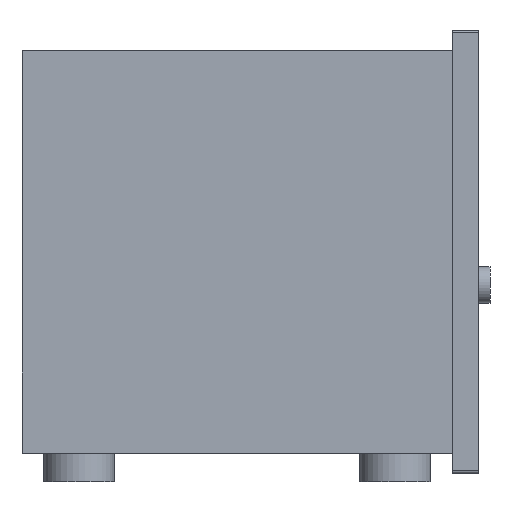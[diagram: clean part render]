
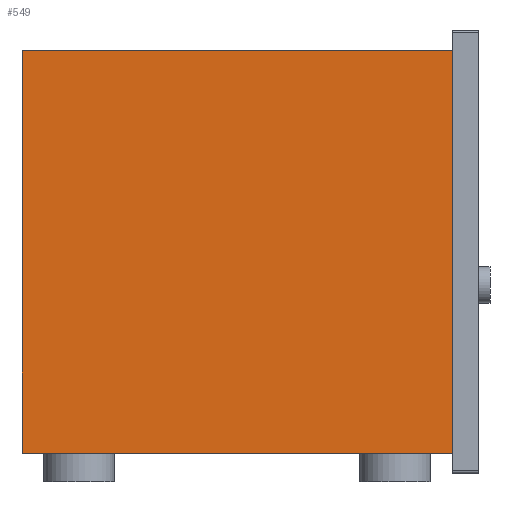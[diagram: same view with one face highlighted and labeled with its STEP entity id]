
A CAD part, left-side view. The second image highlights one B-rep face of the part: STEP entity #549.
In plain terms, the highlighted planar face has unit normal (-1, 0, 0).
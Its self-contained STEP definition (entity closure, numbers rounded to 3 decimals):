
#549=ADVANCED_FACE('',(#794),#659,.F.);
#659=PLANE('',#2810);
#794=FACE_OUTER_BOUND('',#955,.T.);
#955=EDGE_LOOP('',(#1577,#1578,#1579,#1580));
#1577=ORIENTED_EDGE('',*,*,#2141,.T.);
#1578=ORIENTED_EDGE('',*,*,#2142,.F.);
#1579=ORIENTED_EDGE('',*,*,#2143,.F.);
#1580=ORIENTED_EDGE('',*,*,#2144,.T.);
#1825=VERTEX_POINT('',#4453);
#1826=VERTEX_POINT('',#4454);
#1827=VERTEX_POINT('',#4456);
#1828=VERTEX_POINT('',#4458);
#2141=EDGE_CURVE('',#1825,#1826,#2372,.T.);
#2142=EDGE_CURVE('',#1827,#1826,#2373,.T.);
#2143=EDGE_CURVE('',#1828,#1827,#2374,.T.);
#2144=EDGE_CURVE('',#1828,#1825,#2375,.T.);
#2372=LINE('',#4452,#2604);
#2373=LINE('',#4455,#2605);
#2374=LINE('',#4457,#2606);
#2375=LINE('',#4459,#2607);
#2604=VECTOR('',#3444,1.);
#2605=VECTOR('',#3445,1.);
#2606=VECTOR('',#3446,1.);
#2607=VECTOR('',#3447,1.);
#2810=AXIS2_PLACEMENT_3D('',#4460,#3448,#3449);
#3444=DIRECTION('',(0.,-1.,0.));
#3445=DIRECTION('',(0.,0.,-1.));
#3446=DIRECTION('',(0.,-1.,0.));
#3447=DIRECTION('',(0.,0.,-1.));
#3448=DIRECTION('',(1.,0.,0.));
#3449=DIRECTION('',(0.,0.,-1.));
#4452=CARTESIAN_POINT('',(-384.603,105.214,0.));
#4453=CARTESIAN_POINT('',(-384.603,105.214,0.));
#4454=CARTESIAN_POINT('',(-384.603,-271.786,0.));
#4455=CARTESIAN_POINT('',(-384.603,-271.786,353.));
#4456=CARTESIAN_POINT('',(-384.603,-271.786,353.));
#4457=CARTESIAN_POINT('',(-384.603,105.214,353.));
#4458=CARTESIAN_POINT('',(-384.603,105.214,353.));
#4459=CARTESIAN_POINT('',(-384.603,105.214,353.));
#4460=CARTESIAN_POINT('',(-384.603,105.214,353.));
